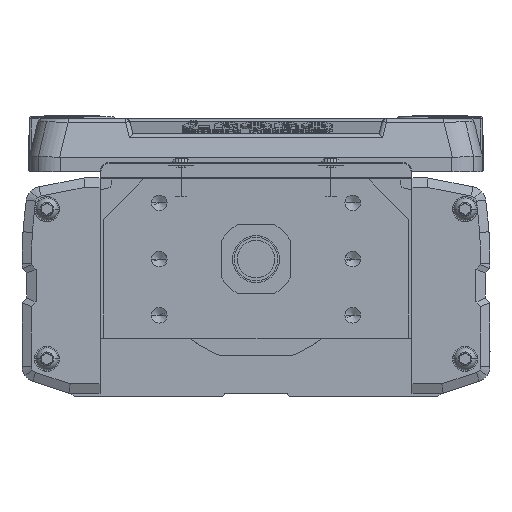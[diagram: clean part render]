
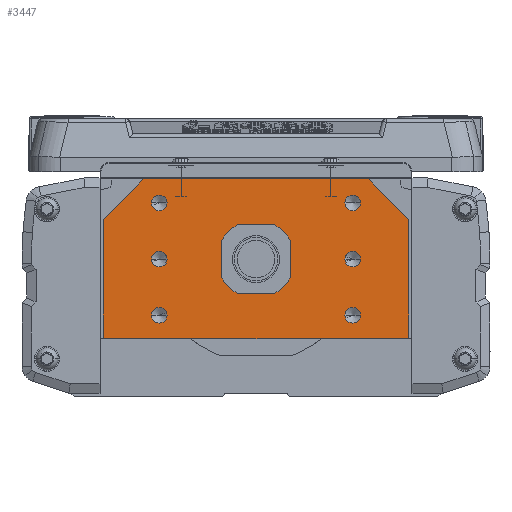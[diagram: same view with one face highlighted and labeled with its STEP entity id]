
A CAD part, left-side view. The second image highlights one B-rep face of the part: STEP entity #3447.
In plain terms, the highlighted planar face has unit normal (-1, 0, 0).
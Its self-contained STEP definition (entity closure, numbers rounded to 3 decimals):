
#3447=ADVANCED_FACE('',(#8433,#8434,#8435,#8436,#8437,#8438,#8439,#8440),#8441,.F.);
#8433=FACE_OUTER_BOUND('',#15920,.T.);
#8434=FACE_BOUND('',#15921,.T.);
#8435=FACE_BOUND('',#15922,.T.);
#8436=FACE_BOUND('',#15923,.T.);
#8437=FACE_BOUND('',#15924,.T.);
#8438=FACE_BOUND('',#15925,.T.);
#8439=FACE_BOUND('',#15926,.T.);
#8440=FACE_BOUND('',#15927,.T.);
#8441=PLANE('',#15928);
#15920=EDGE_LOOP('',(#26569,#26570,#26571,#26572,#26573,#26574,#26575,#26576));
#15921=EDGE_LOOP('',(#26577,#26578));
#15922=EDGE_LOOP('',(#26579,#26580));
#15923=EDGE_LOOP('',(#26581,#26582));
#15924=EDGE_LOOP('',(#26583,#26584));
#15925=EDGE_LOOP('',(#26585,#26586));
#15926=EDGE_LOOP('',(#26587,#26588));
#15927=EDGE_LOOP('',(#26589,#26590));
#15928=AXIS2_PLACEMENT_3D('',#26591,#26592,#26593);
#26569=ORIENTED_EDGE('',*,*,#43860,.F.);
#26570=ORIENTED_EDGE('',*,*,#43861,.F.);
#26571=ORIENTED_EDGE('',*,*,#43862,.F.);
#26572=ORIENTED_EDGE('',*,*,#43863,.F.);
#26573=ORIENTED_EDGE('',*,*,#43864,.F.);
#26574=ORIENTED_EDGE('',*,*,#42667,.F.);
#26575=ORIENTED_EDGE('',*,*,#43865,.F.);
#26576=ORIENTED_EDGE('',*,*,#43697,.F.);
#26577=ORIENTED_EDGE('',*,*,#43866,.T.);
#26578=ORIENTED_EDGE('',*,*,#43867,.T.);
#26579=ORIENTED_EDGE('',*,*,#43868,.T.);
#26580=ORIENTED_EDGE('',*,*,#43869,.T.);
#26581=ORIENTED_EDGE('',*,*,#43870,.T.);
#26582=ORIENTED_EDGE('',*,*,#43871,.T.);
#26583=ORIENTED_EDGE('',*,*,#43872,.T.);
#26584=ORIENTED_EDGE('',*,*,#43873,.T.);
#26585=ORIENTED_EDGE('',*,*,#43874,.T.);
#26586=ORIENTED_EDGE('',*,*,#43875,.T.);
#26587=ORIENTED_EDGE('',*,*,#43876,.T.);
#26588=ORIENTED_EDGE('',*,*,#42697,.T.);
#26589=ORIENTED_EDGE('',*,*,#43877,.F.);
#26590=ORIENTED_EDGE('',*,*,#43878,.F.);
#26591=CARTESIAN_POINT('',(0.,0.275,-2.548));
#26592=DIRECTION('',(1.0,0.,0.));
#26593=DIRECTION('',(0.,1.0,0.));
#42667=EDGE_CURVE('',#51461,#51463,#51464,.T.);
#42697=EDGE_CURVE('',#51517,#51515,#51518,.T.);
#43697=EDGE_CURVE('',#53137,#53139,#53140,.T.);
#43860=EDGE_CURVE('',#53408,#53137,#53409,.T.);
#43861=EDGE_CURVE('',#53410,#53408,#53411,.T.);
#43862=EDGE_CURVE('',#53412,#53410,#53413,.T.);
#43863=EDGE_CURVE('',#53414,#53412,#53415,.T.);
#43864=EDGE_CURVE('',#51463,#53414,#53416,.T.);
#43865=EDGE_CURVE('',#53139,#51461,#53417,.T.);
#43866=EDGE_CURVE('',#53418,#53419,#53420,.T.);
#43867=EDGE_CURVE('',#53419,#53418,#53421,.T.);
#43868=EDGE_CURVE('',#53422,#53423,#53424,.T.);
#43869=EDGE_CURVE('',#53423,#53422,#53425,.T.);
#43870=EDGE_CURVE('',#53426,#53427,#53428,.T.);
#43871=EDGE_CURVE('',#53427,#53426,#53429,.T.);
#43872=EDGE_CURVE('',#53430,#53431,#53432,.T.);
#43873=EDGE_CURVE('',#53431,#53430,#53433,.T.);
#43874=EDGE_CURVE('',#53434,#53435,#53436,.T.);
#43875=EDGE_CURVE('',#53435,#53434,#53437,.T.);
#43876=EDGE_CURVE('',#51515,#51517,#53438,.T.);
#43877=EDGE_CURVE('',#53439,#53440,#53441,.F.);
#43878=EDGE_CURVE('',#53440,#53439,#53442,.F.);
#51461=VERTEX_POINT('',#63503);
#51463=VERTEX_POINT('',#63506);
#51464=LINE('',#63507,#63508);
#51515=VERTEX_POINT('',#63579);
#51517=VERTEX_POINT('',#63582);
#51518=CIRCLE('',#63583,2.5);
#53137=VERTEX_POINT('',#66999);
#53139=VERTEX_POINT('',#67002);
#53140=LINE('',#67003,#67004);
#53408=VERTEX_POINT('',#67361);
#53409=LINE('',#67362,#67363);
#53410=VERTEX_POINT('',#67364);
#53411=LINE('',#67365,#67366);
#53412=VERTEX_POINT('',#67367);
#53413=LINE('',#67368,#67369);
#53414=VERTEX_POINT('',#67370);
#53415=LINE('',#67371,#67372);
#53416=LINE('',#67373,#67374);
#53417=LINE('',#67375,#67376);
#53418=VERTEX_POINT('',#67377);
#53419=VERTEX_POINT('',#67378);
#53420=CIRCLE('',#67379,2.5);
#53421=CIRCLE('',#67380,2.5);
#53422=VERTEX_POINT('',#67381);
#53423=VERTEX_POINT('',#67382);
#53424=CIRCLE('',#67383,2.5);
#53425=CIRCLE('',#67384,2.5);
#53426=VERTEX_POINT('',#67385);
#53427=VERTEX_POINT('',#67386);
#53428=CIRCLE('',#67387,2.5);
#53429=CIRCLE('',#67388,2.5);
#53430=VERTEX_POINT('',#67389);
#53431=VERTEX_POINT('',#67390);
#53432=CIRCLE('',#67391,2.5);
#53433=CIRCLE('',#67392,2.5);
#53434=VERTEX_POINT('',#67393);
#53435=VERTEX_POINT('',#67394);
#53436=CIRCLE('',#67395,2.5);
#53437=CIRCLE('',#67396,2.5);
#53438=CIRCLE('',#67397,2.5);
#53439=VERTEX_POINT('',#67398);
#53440=VERTEX_POINT('',#67399);
#53441=CIRCLE('',#67400,7.5);
#53442=CIRCLE('',#67401,7.5);
#63503=CARTESIAN_POINT('',(0.,-49.,12.7));
#63506=CARTESIAN_POINT('',(0.,-49.,-25.));
#63507=CARTESIAN_POINT('',(0.,-49.,-14.));
#63508=VECTOR('',#78059,10.0);
#63579=CARTESIAN_POINT('',(0.,-33.5,0.));
#63582=CARTESIAN_POINT('',(0.,-28.5,0.));
#63583=AXIS2_PLACEMENT_3D('',#78090,#78091,#78092);
#66999=CARTESIAN_POINT('',(0.,36.,25.7));
#67002=CARTESIAN_POINT('',(0.,-36.,25.7));
#67003=CARTESIAN_POINT('',(0.,34.5,25.7));
#67004=VECTOR('',#79417,10.0);
#67361=CARTESIAN_POINT('',(0.,49.,12.7));
#67362=CARTESIAN_POINT('',(0.,37.381,24.319));
#67363=VECTOR('',#79627,10.);
#67364=CARTESIAN_POINT('',(0.,49.,-25.));
#67365=CARTESIAN_POINT('',(0.,49.,-25.));
#67366=VECTOR('',#79628,10.0);
#67367=CARTESIAN_POINT('',(0.,48.5,-25.5));
#67368=CARTESIAN_POINT('',(0.,48.5,-25.5));
#67369=VECTOR('',#79629,10.0);
#67370=CARTESIAN_POINT('',(0.,-48.5,-25.5));
#67371=CARTESIAN_POINT('',(0.,0.,-25.5));
#67372=VECTOR('',#79630,10.0);
#67373=CARTESIAN_POINT('',(0.,-49.,-25.));
#67374=VECTOR('',#79631,10.0);
#67375=CARTESIAN_POINT('',(0.,-37.243,24.457));
#67376=VECTOR('',#79632,10.0);
#67377=CARTESIAN_POINT('',(0.,33.5,-18.));
#67378=CARTESIAN_POINT('',(0.,28.5,-18.));
#67379=AXIS2_PLACEMENT_3D('',#79633,#79634,#79635);
#67380=AXIS2_PLACEMENT_3D('',#79636,#79637,#79638);
#67381=CARTESIAN_POINT('',(0.,-33.5,-18.));
#67382=CARTESIAN_POINT('',(0.,-28.5,-18.));
#67383=AXIS2_PLACEMENT_3D('',#79639,#79640,#79641);
#67384=AXIS2_PLACEMENT_3D('',#79642,#79643,#79644);
#67385=CARTESIAN_POINT('',(0.,33.5,18.));
#67386=CARTESIAN_POINT('',(0.,28.5,18.));
#67387=AXIS2_PLACEMENT_3D('',#79645,#79646,#79647);
#67388=AXIS2_PLACEMENT_3D('',#79648,#79649,#79650);
#67389=CARTESIAN_POINT('',(0.,-33.5,18.));
#67390=CARTESIAN_POINT('',(0.,-28.5,18.));
#67391=AXIS2_PLACEMENT_3D('',#79651,#79652,#79653);
#67392=AXIS2_PLACEMENT_3D('',#79654,#79655,#79656);
#67393=CARTESIAN_POINT('',(0.,33.5,0.));
#67394=CARTESIAN_POINT('',(0.,28.5,0.));
#67395=AXIS2_PLACEMENT_3D('',#79657,#79658,#79659);
#67396=AXIS2_PLACEMENT_3D('',#79660,#79661,#79662);
#67397=AXIS2_PLACEMENT_3D('',#79663,#79664,#79665);
#67398=CARTESIAN_POINT('',(0.,7.5,0.));
#67399=CARTESIAN_POINT('',(0.,-7.5,0.));
#67400=AXIS2_PLACEMENT_3D('',#79666,#79667,#79668);
#67401=AXIS2_PLACEMENT_3D('',#79669,#79670,#79671);
#78059=DIRECTION('',(0.,0.,-1.0));
#78090=CARTESIAN_POINT('',(0.,-31.,0.));
#78091=DIRECTION('',(1.0,0.,0.));
#78092=DIRECTION('',(0.,-1.0,0.));
#79417=DIRECTION('',(0.,-1.0,0.));
#79627=DIRECTION('',(0.,-0.707,0.707));
#79628=DIRECTION('',(0.,0.,1.0));
#79629=DIRECTION('',(0.,0.707,0.707));
#79630=DIRECTION('',(0.,1.0,0.));
#79631=DIRECTION('',(0.,0.707,-0.707));
#79632=DIRECTION('',(0.,-0.707,-0.707));
#79633=CARTESIAN_POINT('',(0.,31.,-18.));
#79634=DIRECTION('',(1.0,0.,0.));
#79635=DIRECTION('',(0.,1.0,0.));
#79636=CARTESIAN_POINT('',(0.,31.,-18.));
#79637=DIRECTION('',(1.0,0.,0.));
#79638=DIRECTION('',(0.,1.0,0.));
#79639=CARTESIAN_POINT('',(0.,-31.,-18.));
#79640=DIRECTION('',(1.0,0.,0.));
#79641=DIRECTION('',(0.,-1.0,0.));
#79642=CARTESIAN_POINT('',(0.,-31.,-18.));
#79643=DIRECTION('',(1.0,0.,0.));
#79644=DIRECTION('',(0.,-1.0,0.));
#79645=CARTESIAN_POINT('',(0.,31.,18.));
#79646=DIRECTION('',(1.0,0.,0.));
#79647=DIRECTION('',(0.,1.0,0.));
#79648=CARTESIAN_POINT('',(0.,31.,18.));
#79649=DIRECTION('',(1.0,0.,0.));
#79650=DIRECTION('',(0.,1.0,0.));
#79651=CARTESIAN_POINT('',(0.,-31.,18.));
#79652=DIRECTION('',(1.0,0.,0.));
#79653=DIRECTION('',(0.,-1.0,0.));
#79654=CARTESIAN_POINT('',(0.,-31.,18.));
#79655=DIRECTION('',(1.0,0.,0.));
#79656=DIRECTION('',(0.,-1.0,0.));
#79657=CARTESIAN_POINT('',(0.,31.,0.));
#79658=DIRECTION('',(1.0,0.,0.));
#79659=DIRECTION('',(0.,1.0,0.));
#79660=CARTESIAN_POINT('',(0.,31.,0.));
#79661=DIRECTION('',(1.0,0.,0.));
#79662=DIRECTION('',(0.,1.0,0.));
#79663=CARTESIAN_POINT('',(0.,-31.,0.));
#79664=DIRECTION('',(1.0,0.,0.));
#79665=DIRECTION('',(0.,-1.0,0.));
#79666=CARTESIAN_POINT('',(0.,0.,0.));
#79667=DIRECTION('',(1.0,0.,0.));
#79668=DIRECTION('',(0.,-1.0,0.));
#79669=CARTESIAN_POINT('',(0.,0.,0.));
#79670=DIRECTION('',(1.0,0.,0.));
#79671=DIRECTION('',(0.,-1.0,0.));
